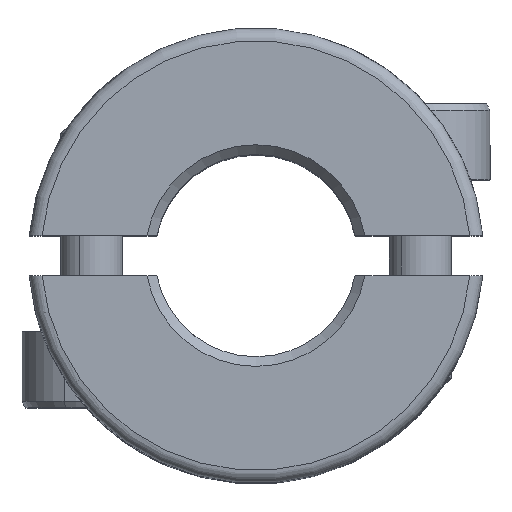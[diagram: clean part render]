
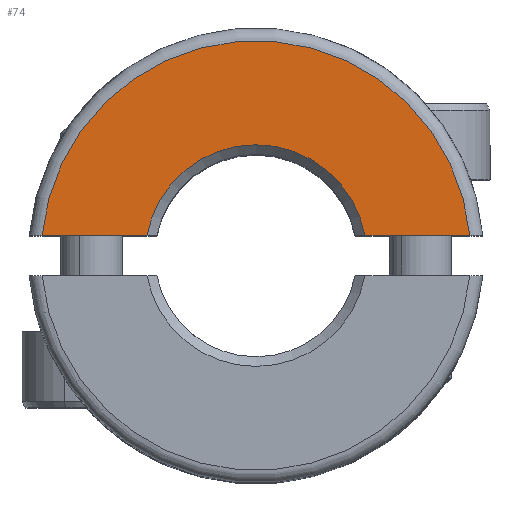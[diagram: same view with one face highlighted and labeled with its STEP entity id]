
A CAD part, top view. The second image highlights one B-rep face of the part: STEP entity #74.
In plain terms, the highlighted planar face has unit normal (0, 0, 1).
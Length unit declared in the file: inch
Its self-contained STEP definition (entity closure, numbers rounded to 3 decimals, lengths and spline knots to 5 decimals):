
#15 = EDGE_LOOP ( 'NONE', ( #84, #120, #1772, #783 ) ) ;
#60 = DIRECTION ( 'NONE',  ( -1., 0., 0. ) ) ;
#74 = ADVANCED_FACE ( 'NONE', ( #1507 ), #1428, .T. ) ;
#84 = ORIENTED_EDGE ( 'NONE', *, *, #1118, .F. ) ;
#120 = ORIENTED_EDGE ( 'NONE', *, *, #505, .T. ) ;
#169 = AXIS2_PLACEMENT_3D ( 'NONE', #1438, #1768, #2114 ) ;
#303 = CIRCLE ( 'NONE', #738, 0.33425 ) ;
#316 = CARTESIAN_POINT ( 'NONE',  ( 0.33278, 0.0313, 0.38553 ) ) ;
#322 = DIRECTION ( 'NONE',  ( -1., 0., 0. ) ) ;
#370 = VECTOR ( 'NONE', #322, 39.37008 ) ;
#410 = CARTESIAN_POINT ( 'NONE',  ( 0., 0., 0.38553 ) ) ;
#453 = CARTESIAN_POINT ( 'NONE',  ( 0.16962, 0.0313, 0.38553 ) ) ;
#459 = LINE ( 'NONE', #1115, #2091 ) ;
#496 = VERTEX_POINT ( 'NONE', #316 ) ;
#505 = EDGE_CURVE ( 'NONE', #496, #1874, #303, .T. ) ;
#623 = DIRECTION ( 'NONE',  ( 0., 0., -1. ) ) ;
#647 = CARTESIAN_POINT ( 'NONE',  ( 0., 0., 0.38553 ) ) ;
#738 = AXIS2_PLACEMENT_3D ( 'NONE', #647, #1238, #1900 ) ;
#769 = CARTESIAN_POINT ( 'NONE',  ( -0.33278, 0.0313, 0.38553 ) ) ;
#783 = ORIENTED_EDGE ( 'NONE', *, *, #1181, .T. ) ;
#876 = AXIS2_PLACEMENT_3D ( 'NONE', #410, #623, #1877 ) ;
#926 = CIRCLE ( 'NONE', #876, 0.17248 ) ;
#935 = EDGE_CURVE ( 'NONE', #1723, #1874, #1239, .T. ) ;
#991 = VERTEX_POINT ( 'NONE', #453 ) ;
#1115 = CARTESIAN_POINT ( 'NONE',  ( 1.05299, 0.0313, 0.38553 ) ) ;
#1118 = EDGE_CURVE ( 'NONE', #496, #991, #459, .T. ) ;
#1181 = EDGE_CURVE ( 'NONE', #1723, #991, #926, .T. ) ;
#1238 = DIRECTION ( 'NONE',  ( 0., 0., 1. ) ) ;
#1239 = LINE ( 'NONE', #1390, #370 ) ;
#1264 = CARTESIAN_POINT ( 'NONE',  ( -0.16962, 0.0313, 0.38553 ) ) ;
#1390 = CARTESIAN_POINT ( 'NONE',  ( 1.05299, 0.0313, 0.38553 ) ) ;
#1428 = PLANE ( 'NONE',  #169 ) ;
#1438 = CARTESIAN_POINT ( 'NONE',  ( 0., 0., 0.38553 ) ) ;
#1507 = FACE_OUTER_BOUND ( 'NONE', #15, .T. ) ;
#1723 = VERTEX_POINT ( 'NONE', #1264 ) ;
#1768 = DIRECTION ( 'NONE',  ( 0., 0., 1. ) ) ;
#1772 = ORIENTED_EDGE ( 'NONE', *, *, #935, .F. ) ;
#1874 = VERTEX_POINT ( 'NONE', #769 ) ;
#1877 = DIRECTION ( 'NONE',  ( 1., 0., 0. ) ) ;
#1900 = DIRECTION ( 'NONE',  ( 1., 0., 0. ) ) ;
#2091 = VECTOR ( 'NONE', #60, 39.37008 ) ;
#2114 = DIRECTION ( 'NONE',  ( 1., 0., 0. ) ) ;
